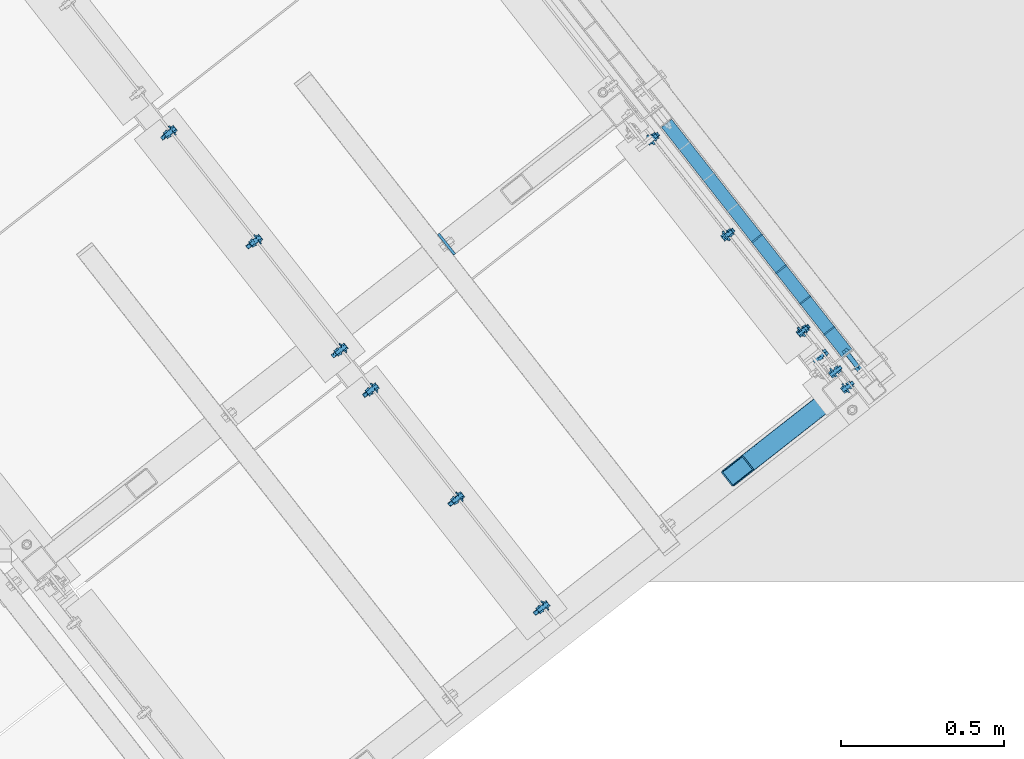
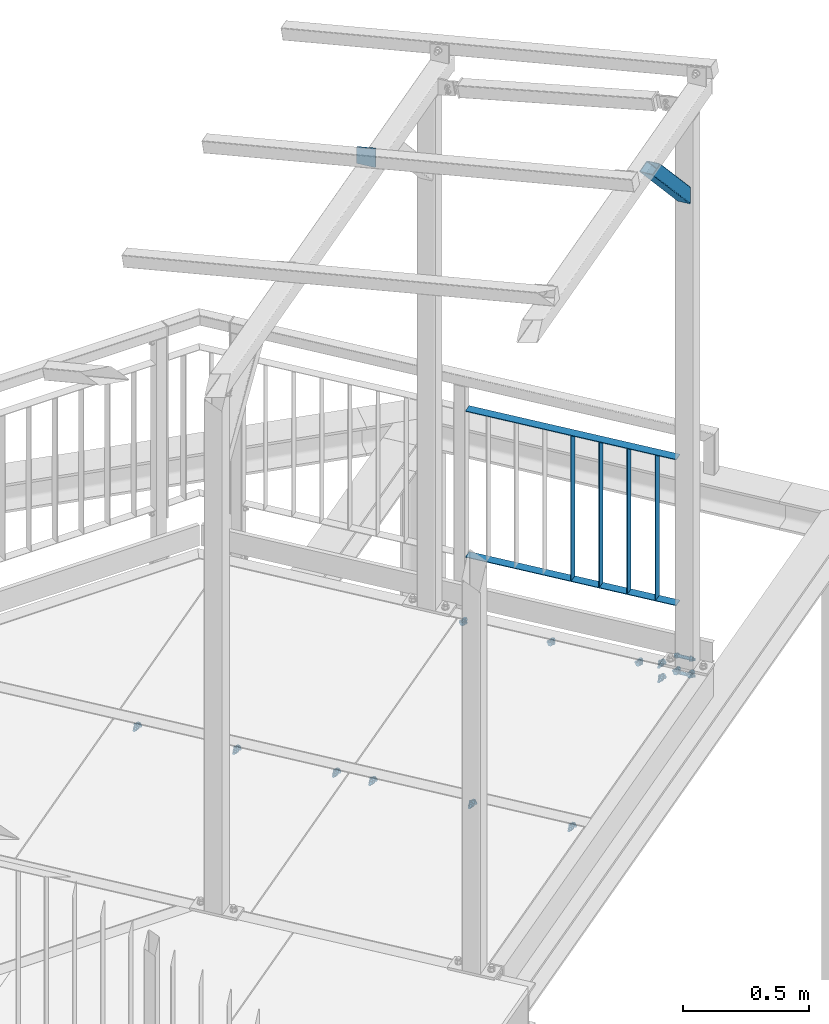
# One storey, part 126 of 169: 8 discrete accessories, 6 mechanical fasteners, 8 elements without a shape of their own.
"""IFC2X3 building model written with IfcOpenShell, lengths in millimetres."""

from ifc_helpers import new_model, si_unit, frame, frame_2d, origin_with_axes, origin_2d_with_axis, place, context, subcontext, project, spatial, polyline, circle_curve, parameter, trimmed, segment, composite_curve, rectangle, hollow_rectangle, circle, outline, extrude, boolean, clip, halfspace, source, transform, mapped, material, type_object, element, aggregate, save


model = new_model("IFC2X3")

# Units and contexts
model_context = context("Model", 3, precision=1e-05, world=origin_with_axes())
body_context = subcontext(model_context, "Body", "Model", "MODEL_VIEW")
ifc_project = project(units=[si_unit("LENGTHUNIT", "METRE", prefix="MILLI"), si_unit("AREAUNIT", "SQUARE_METRE"), si_unit("VOLUMEUNIT", "CUBIC_METRE"), si_unit("MASSUNIT", "GRAM", prefix="KILO"), si_unit("TIMEUNIT", "SECOND"), si_unit("PLANEANGLEUNIT", "RADIAN"), si_unit("SOLIDANGLEUNIT", "STERADIAN"), si_unit("THERMODYNAMICTEMPERATUREUNIT", "DEGREE_CELSIUS"), si_unit("LUMINOUSINTENSITYUNIT", "LUMEN")], contexts=[model_context])

# Site, building, storey
site_placement = place(None, origin_with_axes())
site = spatial("IfcSite", under=ifc_project, at=site_placement, Name="Undefined", CompositionType="ELEMENT")
building_placement = place(site_placement, origin_with_axes())
building = spatial("IfcBuilding", under=site, at=building_placement, Name="Undefined", CompositionType="ELEMENT")
storey_placement = place(building_placement, origin_with_axes())
storey = spatial("IfcBuildingStorey", under=building, at=storey_placement, Name="Undefined", CompositionType="ELEMENT", Elevation=0.0)

# Assembly, discrete accessory
assembly_1_placement = place(storey_placement, origin_with_axes())
assembly_1 = element("IfcElementAssembly", 1, at=assembly_1_placement, inside=storey, Name="Steel Assembly", AssemblyPlace="NOTDEFINED", PredefinedType="RIGID_FRAME")
ifc_material_1 = material(Name="STEEL/S235")
discrete_accessory_type_1 = type_object("IfcDiscreteAccessoryType", Name="BLACHA")
discrete_accessory_1_placement = place(assembly_1_placement, frame((21189.1758107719, 1049.73649792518, 16364.2280948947), z_axis=(-0.7867732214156, -0.61724217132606, -1.0406294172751e-07), x_axis=(0.617242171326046, -0.786773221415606, 1.36000016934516e-07)))
discrete_accessory_1 = element("IfcDiscreteAccessory", 2, at=discrete_accessory_1_placement, type_object=discrete_accessory_type_1, material=ifc_material_1, Name="BLACHA", ObjectType="BL8*80", context=body_context, shape_type="SweptSolid", body=[
    extrude(outline(polyline([(0.0, 0.0), (80.0000000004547, 5.02041075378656e-10), (80.0000000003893, 89.9999999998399), (-2.08646997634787e-06, 77.0), (0.0, 0.0)])), frame((1.81942236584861e-12, -3.63797880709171e-12, -4.00000000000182), z_axis=(0.0, 0.0, 1.0), x_axis=(1.0, 0.0, 0.0)), (0.0, 0.0, 1.0), 8.0),
])
aggregate(assembly_1, [discrete_accessory_1])

assembly_2_placement = place(storey_placement, origin_with_axes())
assembly_2 = element("IfcElementAssembly", 3, at=assembly_2_placement, inside=storey, Name="Steel Assembly", AssemblyPlace="NOTDEFINED", PredefinedType="RIGID_FRAME")
discrete_accessory_type_2 = type_object("IfcDiscreteAccessoryType", Name="BEAM")
discrete_accessory_2_placement = place(assembly_2_placement, frame((22091.2664834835, 308.491680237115, 16481.4411431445), z_axis=(-0.556332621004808, -0.436456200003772, -0.707106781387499), x_axis=(0.556332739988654, 0.436456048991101, -0.707106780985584)))
discrete_accessory_2 = element("IfcDiscreteAccessory", 4, at=discrete_accessory_2_placement, type_object=discrete_accessory_type_2, material=ifc_material_1, Name="BEAM", ObjectType="SHS60*3", context=body_context, shape_type="Clipping", body=[
    clip(clip(extrude(hollow_rectangle(XDim=60.0, YDim=60.0, WallThickness=3.0, InnerFilletRadius=3.0, OuterFilletRadius=6.0, at=origin_2d_with_axis()), frame((637.904540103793, 1.81363206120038e-12, 3.67338962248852e-12), z_axis=(-1.0, -3.46944695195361e-18, -1.38777878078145e-17), x_axis=(1.73472347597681e-18, -1.0, 0.0)), (0.0, 0.0, 1.0), 710.12), halfspace(frame((-143.137085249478, 3.41260601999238e-08, -678.822510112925), z_axis=(-0.707106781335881, -2.34577541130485e-10, 0.707106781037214), x_axis=(0.0, 1.0, 0.0)), True)), halfspace(frame((-705.391246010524, -5.43720307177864e-06, 735.391122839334), z_axis=(0.707106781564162, 2.34575523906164e-10, 0.707106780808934), x_axis=(0.0, 1.0, 0.0)), True)),
])
aggregate(assembly_2, [discrete_accessory_2])

# Assembly, discrete accessories
assembly_3_placement = place(storey_placement, origin_with_axes())
assembly_3 = element("IfcElementAssembly", 5, at=assembly_3_placement, inside=storey, Name="Steel Assembly", AssemblyPlace="NOTDEFINED", PredefinedType="RIGID_FRAME")
discrete_accessory_type_3 = type_object("IfcDiscreteAccessoryType", Name="PORĘCZ")
discrete_accessory_3_placement = place(assembly_3_placement, frame((21873.9374202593, 1409.80245815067, 14725.4172732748), z_axis=(-2.54700353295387e-10, 0.0, -1.0), x_axis=(0.617242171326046, -0.786773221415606, 1.36000016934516e-07)))
discrete_accessory_3 = element("IfcDiscreteAccessory", 6, at=discrete_accessory_3_placement, type_object=discrete_accessory_type_3, material=ifc_material_1, Name="PORĘCZ", ObjectType="BL40*3", context=body_context, shape_type="CSG", body=[
    boolean("DIFFERENCE", boolean("DIFFERENCE", boolean("DIFFERENCE", boolean("DIFFERENCE", extrude(outline(polyline([(25.4999999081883, 20.0000000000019), (925.126753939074, 20.0000000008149), (925.126753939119, -19.9999999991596), (25.499999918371, -19.9999999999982), (25.4999999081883, 20.0000000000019)])), frame((1.81898940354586e-12, -1.77635442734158e-15, -1.50000000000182), z_axis=(0.0, 0.0, 1.0), x_axis=(1.0, 0.0, 0.0)), (0.0, 0.0, 1.0), 3.0), extrude(rectangle(XDim=51.0, YDim=51.0, at=origin_2d_with_axis()), frame((-5.94487782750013e-08, -4.65977194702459e-09, -139.999999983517), z_axis=(0.0, 0.0, 1.0), x_axis=(1.0, 0.0, 0.0)), (0.0, 0.0, 1.0), 280.0)), extrude(rectangle(XDim=51.0, YDim=51.0, at=origin_2d_with_axis()), frame((950.626758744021, -4.45170614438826e-08, -140.000000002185), z_axis=(0.0, 0.0, 1.0), x_axis=(1.0, 0.0, 0.0)), (0.0, 0.0, 1.0), 280.0)), halfspace(frame((24.9999999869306, 1000.00000000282, -1.78988557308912e-09), z_axis=(1.0, 0.0, 0.0), x_axis=(-2.54700353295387e-10, 0.0, -1.0)), True)), halfspace(frame((925.626778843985, 1000.00000000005, -7.62682248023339e-07), z_axis=(-1.0, -3.46944695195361e-18, -1.38777878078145e-17), x_axis=(0.0, 0.0, 1.0)), True)),
])
discrete_accessory_4_placement = place(assembly_3_placement, frame((22167.3207978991, 1035.83854390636, 14870.4177209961), z_axis=(-0.617242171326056, 0.786773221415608, 5.09999997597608e-08), x_axis=(-2.54700353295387e-10, 0.0, -1.0)))
discrete_accessory_4 = element("IfcDiscreteAccessory", 7, at=discrete_accessory_4_placement, type_object=discrete_accessory_type_3, material=ifc_material_1, Name="PORĘCZ", ObjectType="BL40*3", context=body_context, shape_type="Clipping", body=[
    clip(clip(clip(extrude(outline(polyline([(848.499998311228, 19.9999999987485), (848.500000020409, -20.000000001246), (146.500383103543, -20.0000000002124), (146.500381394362, 19.9999999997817), (848.499998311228, 19.9999999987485)])), frame((1.81898940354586e-12, -1.77635442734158e-15, -1.50000000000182), z_axis=(0.0, 0.0, 1.0), x_axis=(1.0, 0.0, 0.0)), (0.0, 0.0, 1.0), 3.0), halfspace(frame((146.500339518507, 1000.00000006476, -1.23327481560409e-09), z_axis=(1.0, 0.0, 0.0), x_axis=(-2.54700353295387e-10, 0.0, -1.0)), True)), halfspace(frame((848.499956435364, 999.999999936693, 2.33558239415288e-09), z_axis=(-1.0, -3.46944695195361e-18, -1.38777878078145e-17), x_axis=(0.0, 0.0, 1.0)), True)), halfspace(frame((24.9999999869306, 1000.00000000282, -1.78988557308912e-09), z_axis=(1.0, 0.0, 0.0), x_axis=(-2.54700353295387e-10, 0.0, -1.0)), True)),
])
discrete_accessory_5_placement = place(assembly_3_placement, frame((22241.3898584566, 941.425757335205, 14870.4177373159), z_axis=(-0.617242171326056, 0.786773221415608, 5.09999997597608e-08), x_axis=(-2.54700353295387e-10, 0.0, -1.0)))
discrete_accessory_5 = element("IfcDiscreteAccessory", 8, at=discrete_accessory_5_placement, type_object=discrete_accessory_type_3, material=ifc_material_1, Name="PORĘCZ", ObjectType="BL40*3", context=body_context, shape_type="Clipping", body=[
    clip(clip(clip(extrude(outline(polyline([(848.499998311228, 19.9999999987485), (848.500000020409, -20.000000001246), (146.500383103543, -20.0000000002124), (146.500381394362, 19.9999999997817), (848.499998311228, 19.9999999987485)])), frame((1.81898940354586e-12, -1.77635442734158e-15, -1.50000000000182), z_axis=(0.0, 0.0, 1.0), x_axis=(1.0, 0.0, 0.0)), (0.0, 0.0, 1.0), 3.0), halfspace(frame((146.500339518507, 1000.00000006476, -1.23327481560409e-09), z_axis=(1.0, 0.0, 0.0), x_axis=(-2.54700353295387e-10, 0.0, -1.0)), True)), halfspace(frame((848.499956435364, 999.999999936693, 2.33558239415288e-09), z_axis=(-1.0, -3.46944695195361e-18, -1.38777878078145e-17), x_axis=(0.0, 0.0, 1.0)), True)), halfspace(frame((24.9999999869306, 1000.00000000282, -1.78988557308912e-09), z_axis=(1.0, 0.0, 0.0), x_axis=(-2.54700353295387e-10, 0.0, -1.0)), True)),
])
discrete_accessory_6_placement = place(assembly_3_placement, frame((22315.4589190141, 847.01297076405, 14870.4177536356), z_axis=(-0.617242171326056, 0.786773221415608, 5.09999997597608e-08), x_axis=(-2.54700353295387e-10, 0.0, -1.0)))
discrete_accessory_6 = element("IfcDiscreteAccessory", 9, at=discrete_accessory_6_placement, type_object=discrete_accessory_type_3, material=ifc_material_1, Name="PORĘCZ", ObjectType="BL40*3", context=body_context, shape_type="Clipping", body=[
    clip(clip(clip(extrude(outline(polyline([(848.499998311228, 19.9999999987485), (848.500000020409, -20.000000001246), (146.500383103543, -20.0000000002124), (146.500381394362, 19.9999999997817), (848.499998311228, 19.9999999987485)])), frame((1.81898940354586e-12, -1.77635442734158e-15, -1.50000000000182), z_axis=(0.0, 0.0, 1.0), x_axis=(1.0, 0.0, 0.0)), (0.0, 0.0, 1.0), 3.0), halfspace(frame((146.500339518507, 1000.00000006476, -1.23327481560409e-09), z_axis=(1.0, 0.0, 0.0), x_axis=(-2.54700353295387e-10, 0.0, -1.0)), True)), halfspace(frame((848.499956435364, 999.999999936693, 2.33558239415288e-09), z_axis=(-1.0, -3.46944695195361e-18, -1.38777878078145e-17), x_axis=(0.0, 0.0, 1.0)), True)), halfspace(frame((24.9999999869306, 1000.00000000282, -1.78988557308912e-09), z_axis=(1.0, 0.0, 0.0), x_axis=(-2.54700353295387e-10, 0.0, -1.0)), True)),
])
discrete_accessory_7_placement = place(assembly_3_placement, frame((22389.5279795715, 752.600184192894, 14870.4177699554), z_axis=(-0.617242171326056, 0.786773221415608, 5.09999997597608e-08), x_axis=(-2.54700353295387e-10, 0.0, -1.0)))
discrete_accessory_7 = element("IfcDiscreteAccessory", 10, at=discrete_accessory_7_placement, type_object=discrete_accessory_type_3, material=ifc_material_1, Name="PORĘCZ", ObjectType="BL40*3", context=body_context, shape_type="Clipping", body=[
    clip(clip(clip(extrude(outline(polyline([(848.499998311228, 19.9999999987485), (848.500000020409, -20.000000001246), (146.500383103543, -20.0000000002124), (146.500381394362, 19.9999999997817), (848.499998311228, 19.9999999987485)])), frame((1.81898940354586e-12, -1.77635442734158e-15, -1.50000000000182), z_axis=(0.0, 0.0, 1.0), x_axis=(1.0, 0.0, 0.0)), (0.0, 0.0, 1.0), 3.0), halfspace(frame((146.500339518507, 1000.00000006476, -1.23327481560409e-09), z_axis=(1.0, 0.0, 0.0), x_axis=(-2.54700353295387e-10, 0.0, -1.0)), True)), halfspace(frame((848.499956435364, 999.999999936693, 2.33558239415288e-09), z_axis=(-1.0, -3.46944695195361e-18, -1.38777878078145e-17), x_axis=(0.0, 0.0, 1.0)), True)), halfspace(frame((24.9999999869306, 1000.00000000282, -1.78988557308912e-09), z_axis=(1.0, 0.0, 0.0), x_axis=(-2.54700353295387e-10, 0.0, -1.0)), True)),
])
discrete_accessory_8_placement = place(assembly_3_placement, frame((21873.9374794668, 1409.80238273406, 14020.4176563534), z_axis=(-2.54700353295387e-10, 0.0, -1.0), x_axis=(0.617242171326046, -0.786773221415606, 1.36000016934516e-07)))
discrete_accessory_8 = element("IfcDiscreteAccessory", 11, at=discrete_accessory_8_placement, type_object=discrete_accessory_type_3, material=ifc_material_1, Name="PORĘCZ", ObjectType="BL40*3", context=body_context, shape_type="CSG", body=[
    boolean("DIFFERENCE", boolean("DIFFERENCE", boolean("DIFFERENCE", boolean("DIFFERENCE", extrude(outline(polyline([(25.4999999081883, 20.0000000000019), (925.126753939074, 20.0000000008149), (925.126753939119, -19.9999999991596), (25.499999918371, -19.9999999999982), (25.4999999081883, 20.0000000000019)])), frame((1.81898940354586e-12, -1.77635442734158e-15, -1.50000000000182), z_axis=(0.0, 0.0, 1.0), x_axis=(1.0, 0.0, 0.0)), (0.0, 0.0, 1.0), 3.0), extrude(rectangle(XDim=51.0, YDim=51.0, at=origin_2d_with_axis()), frame((-5.94487782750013e-08, -4.65977194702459e-09, -139.999999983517), z_axis=(0.0, 0.0, 1.0), x_axis=(1.0, 0.0, 0.0)), (0.0, 0.0, 1.0), 280.0)), extrude(rectangle(XDim=51.0, YDim=51.0, at=origin_2d_with_axis()), frame((950.626758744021, -4.45170614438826e-08, -140.000000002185), z_axis=(0.0, 0.0, 1.0), x_axis=(1.0, 0.0, 0.0)), (0.0, 0.0, 1.0), 280.0)), halfspace(frame((24.9999999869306, 1000.00000000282, -1.78988557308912e-09), z_axis=(1.0, 0.0, 0.0), x_axis=(-2.54700353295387e-10, 0.0, -1.0)), True)), halfspace(frame((925.626778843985, 1000.00000000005, -7.62682248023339e-07), z_axis=(-1.0, -3.46944695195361e-18, -1.38777878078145e-17), x_axis=(0.0, 0.0, 1.0)), True)),
])
aggregate(assembly_3, [discrete_accessory_3, discrete_accessory_4, discrete_accessory_5, discrete_accessory_6, discrete_accessory_7, discrete_accessory_8])

# Assembly, mechanical fastener
assembly_4_placement = place(storey_placement, origin_with_axes())
assembly_4 = element("IfcElementAssembly", 12, at=assembly_4_placement, inside=storey, Name="Steel Assembly", AssemblyPlace="NOTDEFINED", PredefinedType="RIGID_FRAME")
ifc_material_2 = material(Name="Undefined")
discrete_accessory_type_4 = type_object("IfcDiscreteAccessoryType", Name="Bolt assembly")
shared_shape_1 = source(origin_with_axes(), body_context, "Body", "SweptSolid", [
    extrude(circle(Radius=7.5, at=origin_2d_with_axis()), frame((0.0, 4.89999999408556, 0.0), z_axis=(0.0, 1.0, 0.0), x_axis=(1.0, 0.0, 0.0)), (0.0, 0.0, 1.0), 7.1),
    extrude(outline(composite_curve([segment(polyline([(-10.0, 7.5), (10.0, 7.5)]), True, "CONTINUOUS"), segment(trimmed(circle_curve(frame_2d((10.0, 0.0), x_axis=(0.0, 1.0)), 7.5), [parameter(0.0)], [parameter(3.14159265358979)], False, "PARAMETER"), True, "CONTINUOUS"), segment(polyline([(10.0, -7.5), (-10.0, -7.5)]), True, "CONTINUOUS"), segment(trimmed(circle_curve(frame_2d((-10.0, 0.0), x_axis=(0.0, -1.0)), 7.5), [parameter(0.0)], [parameter(3.14159265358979)], False, "PARAMETER"), True, "DISCONTINUOUS")], self_intersect=False)), frame((0.0, 0.100000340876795, 0.0), z_axis=(0.0, 1.0, 0.0), x_axis=(1.0, 0.0, 0.0)), (0.0, 0.0, 1.0), 5.0),
    extrude(outline(polyline([(10.39230484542, 0.0), (5.19615242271, 9.00000000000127), (-5.19615242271, 9.00000000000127), (-10.39230484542, 0.0), (-5.19615242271, -9.00000000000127), (5.19615242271, -9.00000000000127), (10.39230484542, 0.0)])), frame((0.0, -10.4999989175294, 0.0), z_axis=(0.0, 1.0, 0.0), x_axis=(1.0, 0.0, 0.0)), (0.0, 0.0, 1.0), 7.5),
    extrude(circle(Radius=6.0, at=origin_2d_with_axis()), frame((0.0, -3.00000607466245, 0.0), z_axis=(0.0, 1.0, 0.0), x_axis=(1.0, 0.0, 0.0)), (0.0, 0.0, 1.0), 35.0),
    extrude(circle(Radius=12.0, at=origin_2d_with_axis()), frame((0.0, -3.00000607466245, 0.0), z_axis=(0.0, 1.0, 0.0), x_axis=(1.0, 0.0, 0.0)), (0.0, 0.0, 1.0), 3.0),
    extrude(circle(Radius=12.0, at=origin_2d_with_axis()), frame((0.0, 12.000000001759, 0.0), z_axis=(0.0, 1.0, 0.0), x_axis=(1.0, 0.0, 0.0)), (0.0, 0.0, 1.0), 3.0),
    extrude(outline(polyline([(10.96965511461, 0.0), (5.484827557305, 9.50000000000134), (-5.484827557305, 9.50000000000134), (-10.96965511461, 0.0), (-5.484827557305, -9.50000000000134), (5.484827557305, -9.50000000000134), (10.96965511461, 0.0)])), frame((0.0, 14.9999935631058, 0.0), z_axis=(0.0, 1.0, 0.0), x_axis=(1.0, 0.0, 0.0)), (0.0, 0.0, 1.0), 10.0),
])
mechanical_fastener_1_placement = place(assembly_4_placement, frame((22437.9809271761, 574.191537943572, 13740.418461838), z_axis=(-2.54700353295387e-10, 0.0, -1.0), x_axis=(-0.617242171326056, 0.786773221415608, 5.09999997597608e-08)))
mechanical_fastener_1 = element("IfcMechanicalFastener", 13, at=mechanical_fastener_1_placement, type_object=discrete_accessory_type_4, material=ifc_material_2, Name="Bolt assembly", NominalDiameter=12.0, NominalLength=35.0, context=body_context, shape_type="MappedRepresentation", body=[
    mapped(shared_shape_1, transform((0.0, 0.0, 0.0))),
    mapped(shared_shape_1, transform((60.0000000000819, 1.45519152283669e-11, 1.63709046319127e-11))),
])
aggregate(assembly_4, [mechanical_fastener_1])

assembly_5_placement = place(storey_placement, origin_with_axes())
assembly_5 = element("IfcElementAssembly", 14, at=assembly_5_placement, inside=storey, Name="Steel Assembly", AssemblyPlace="NOTDEFINED", PredefinedType="RIGID_FRAME")
shared_shape_2 = source(origin_with_axes(), body_context, "Body", "SweptSolid", [
    extrude(circle(Radius=7.5, at=origin_2d_with_axis()), frame((0.0, 4.89999999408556, 0.0), z_axis=(0.0, 1.0, 0.0), x_axis=(1.0, 0.0, 0.0)), (0.0, 0.0, 1.0), 7.1),
    extrude(outline(composite_curve([segment(polyline([(-10.0, 7.5), (10.0, 7.5)]), True, "CONTINUOUS"), segment(trimmed(circle_curve(frame_2d((10.0, 0.0), x_axis=(0.0, 1.0)), 7.5), [parameter(0.0)], [parameter(3.14159265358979)], False, "PARAMETER"), True, "CONTINUOUS"), segment(polyline([(10.0, -7.5), (-10.0, -7.5)]), True, "CONTINUOUS"), segment(trimmed(circle_curve(frame_2d((-10.0, 0.0), x_axis=(0.0, -1.0)), 7.5), [parameter(0.0)], [parameter(3.14159265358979)], False, "PARAMETER"), True, "DISCONTINUOUS")], self_intersect=False)), frame((0.0, 0.100000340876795, 0.0), z_axis=(0.0, 1.0, 0.0), x_axis=(1.0, 0.0, 0.0)), (0.0, 0.0, 1.0), 5.0),
    extrude(outline(polyline([(10.39230484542, 0.0), (5.19615242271, 9.00000000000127), (-5.19615242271, 9.00000000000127), (-10.39230484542, 0.0), (-5.19615242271, -9.00000000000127), (5.19615242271, -9.00000000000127), (10.39230484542, 0.0)])), frame((0.0, -10.4999989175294, 0.0), z_axis=(0.0, 1.0, 0.0), x_axis=(1.0, 0.0, 0.0)), (0.0, 0.0, 1.0), 7.5),
    extrude(circle(Radius=6.0, at=origin_2d_with_axis()), frame((0.0, -3.00000607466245, 0.0), z_axis=(0.0, 1.0, 0.0), x_axis=(1.0, 0.0, 0.0)), (0.0, 0.0, 1.0), 35.0),
    extrude(circle(Radius=12.0, at=origin_2d_with_axis()), frame((0.0, -3.00000607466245, 0.0), z_axis=(0.0, 1.0, 0.0), x_axis=(1.0, 0.0, 0.0)), (0.0, 0.0, 1.0), 3.0),
    extrude(circle(Radius=12.0, at=origin_2d_with_axis()), frame((0.0, 12.000000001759, 0.0), z_axis=(0.0, 1.0, 0.0), x_axis=(1.0, 0.0, 0.0)), (0.0, 0.0, 1.0), 3.0),
    extrude(outline(polyline([(10.96965511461, 0.0), (5.484827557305, 9.50000000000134), (-5.484827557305, 9.50000000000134), (-10.96965511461, 0.0), (-5.484827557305, -9.50000000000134), (5.484827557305, -9.50000000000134), (10.96965511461, 0.0)])), frame((0.0, 14.9999935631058, 0.0), z_axis=(0.0, 1.0, 0.0), x_axis=(1.0, 0.0, 0.0)), (0.0, 0.0, 1.0), 10.0),
])
mechanical_fastener_2_placement = place(assembly_5_placement, frame((22302.187591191, 747.281725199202, 13740.418431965), z_axis=(-2.54700353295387e-10, 0.0, -1.0), x_axis=(-0.617242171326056, 0.786773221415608, 5.09999997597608e-08)))
mechanical_fastener_2 = element("IfcMechanicalFastener", 15, at=mechanical_fastener_2_placement, type_object=discrete_accessory_type_4, material=ifc_material_2, Name="Bolt assembly", NominalDiameter=12.0, NominalLength=35.0, context=body_context, shape_type="MappedRepresentation", body=[
    mapped(shared_shape_2, transform((0.0, 0.0, 0.0))),
    mapped(shared_shape_2, transform((375.00000000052, 1.01863406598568e-10, 1.00044417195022e-10))),
    mapped(shared_shape_2, transform((750.000000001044, 2.07364792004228e-10, 2.0190782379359e-10))),
])
aggregate(assembly_5, [mechanical_fastener_2])

assembly_6_placement = place(storey_placement, origin_with_axes())
assembly_6 = element("IfcElementAssembly", 16, at=assembly_6_placement, inside=storey, Name="Steel Assembly", AssemblyPlace="NOTDEFINED", PredefinedType="RIGID_FRAME")
shared_shape_3 = source(origin_with_axes(), body_context, "Body", "SweptSolid", [
    extrude(circle(Radius=7.5, at=origin_2d_with_axis()), frame((0.0, 2.94991391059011, 0.0), z_axis=(0.0, 1.0, 0.0), x_axis=(1.0, 0.0, 0.0)), (0.0, 0.0, 1.0), 7.0),
    extrude(outline(composite_curve([segment(polyline([(-10.0, 7.5), (10.0, 7.5)]), True, "CONTINUOUS"), segment(trimmed(circle_curve(frame_2d((10.0, 0.0), x_axis=(0.0, 1.0)), 7.5), [parameter(0.0)], [parameter(3.14159265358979)], False, "PARAMETER"), True, "CONTINUOUS"), segment(polyline([(10.0, -7.5), (-10.0, -7.5)]), True, "CONTINUOUS"), segment(trimmed(circle_curve(frame_2d((-10.0, 0.0), x_axis=(0.0, -1.0)), 7.5), [parameter(0.0)], [parameter(3.14159265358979)], False, "PARAMETER"), True, "DISCONTINUOUS")], self_intersect=False)), frame((0.0, 0.100000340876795, 0.0), z_axis=(0.0, 1.0, 0.0), x_axis=(1.0, 0.0, 0.0)), (0.0, 0.0, 1.0), 3.0),
    extrude(circle(Radius=7.5, at=origin_2d_with_axis()), frame((0.0, 9.84991653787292, 0.0), z_axis=(0.0, 1.0, 0.0), x_axis=(1.0, 0.0, 0.0)), (0.0, 0.0, 1.0), 5.1),
    extrude(outline(polyline([(10.39230484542, 0.0), (5.19615242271, 9.00000000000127), (-5.19615242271, 9.00000000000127), (-10.39230484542, 0.0), (-5.19615242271, -9.00000000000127), (5.19615242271, -9.00000000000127), (10.39230484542, 0.0)])), frame((0.0, -10.4999989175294, 0.0), z_axis=(0.0, 1.0, 0.0), x_axis=(1.0, 0.0, 0.0)), (0.0, 0.0, 1.0), 7.5),
    extrude(circle(Radius=6.0, at=origin_2d_with_axis()), frame((0.0, -3.00000607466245, 0.0), z_axis=(0.0, 1.0, 0.0), x_axis=(1.0, 0.0, 0.0)), (0.0, 0.0, 1.0), 45.0),
    extrude(circle(Radius=12.0, at=origin_2d_with_axis()), frame((0.0, -3.00000607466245, 0.0), z_axis=(0.0, 1.0, 0.0), x_axis=(1.0, 0.0, 0.0)), (0.0, 0.0, 1.0), 3.0),
    extrude(circle(Radius=12.0, at=origin_2d_with_axis()), frame((0.0, 14.9499165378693, 0.0), z_axis=(0.0, 1.0, 0.0), x_axis=(1.0, 0.0, 0.0)), (0.0, 0.0, 1.0), 3.0),
    extrude(outline(polyline([(10.96965511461, 0.0), (5.484827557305, 9.50000000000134), (-5.484827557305, 9.50000000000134), (-10.96965511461, 0.0), (-5.484827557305, -9.50000000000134), (5.484827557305, -9.50000000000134), (10.96965511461, 0.0)])), frame((0.0, 17.9499165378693, 0.0), z_axis=(0.0, 1.0, 0.0), x_axis=(1.0, 0.0, 0.0)), (0.0, 0.0, 1.0), 10.0),
])
mechanical_fastener_3_placement = place(assembly_6_placement, frame((21517.1780166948, -91.0044379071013, 13740.4180679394), z_axis=(0.0, 0.0, 1.0), x_axis=(-0.617242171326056, 0.786773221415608, 5.09999997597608e-08)))
mechanical_fastener_3 = element("IfcMechanicalFastener", 17, at=mechanical_fastener_3_placement, type_object=discrete_accessory_type_4, material=ifc_material_2, Name="Bolt assembly", NominalDiameter=12.0, NominalLength=45.0, context=body_context, shape_type="MappedRepresentation", body=[
    mapped(shared_shape_3, transform((0.0, 0.0, 0.0))),
    mapped(shared_shape_3, transform((425.000000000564, -1.43700162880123e-10, -1.69166014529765e-10))),
    mapped(shared_shape_3, transform((850.000000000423, 3.6379787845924e-12, 4.71844785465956e-14))),
])
aggregate(assembly_6, [mechanical_fastener_3])

assembly_7_placement = place(storey_placement, origin_with_axes())
assembly_7 = element("IfcElementAssembly", 18, at=assembly_7_placement, inside=storey, Name="Steel Assembly", AssemblyPlace="NOTDEFINED", PredefinedType="RIGID_FRAME")
shared_shape_4 = source(origin_with_axes(), body_context, "Body", "SweptSolid", [
    extrude(circle(Radius=7.5, at=origin_2d_with_axis()), frame((0.0, 2.94991391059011, 0.0), z_axis=(0.0, 1.0, 0.0), x_axis=(1.0, 0.0, 0.0)), (0.0, 0.0, 1.0), 7.0),
    extrude(outline(composite_curve([segment(polyline([(-10.0, 7.5), (10.0, 7.5)]), True, "CONTINUOUS"), segment(trimmed(circle_curve(frame_2d((10.0, 0.0), x_axis=(0.0, 1.0)), 7.5), [parameter(0.0)], [parameter(3.14159265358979)], False, "PARAMETER"), True, "CONTINUOUS"), segment(polyline([(10.0, -7.5), (-10.0, -7.5)]), True, "CONTINUOUS"), segment(trimmed(circle_curve(frame_2d((-10.0, 0.0), x_axis=(0.0, -1.0)), 7.5), [parameter(0.0)], [parameter(3.14159265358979)], False, "PARAMETER"), True, "DISCONTINUOUS")], self_intersect=False)), frame((0.0, 0.100000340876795, 0.0), z_axis=(0.0, 1.0, 0.0), x_axis=(1.0, 0.0, 0.0)), (0.0, 0.0, 1.0), 3.0),
    extrude(circle(Radius=7.5, at=origin_2d_with_axis()), frame((0.0, 9.84991653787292, 0.0), z_axis=(0.0, 1.0, 0.0), x_axis=(1.0, 0.0, 0.0)), (0.0, 0.0, 1.0), 5.1),
    extrude(outline(polyline([(10.39230484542, 0.0), (5.19615242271, 9.00000000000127), (-5.19615242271, 9.00000000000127), (-10.39230484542, 0.0), (-5.19615242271, -9.00000000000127), (5.19615242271, -9.00000000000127), (10.39230484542, 0.0)])), frame((0.0, -10.4999989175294, 0.0), z_axis=(0.0, 1.0, 0.0), x_axis=(1.0, 0.0, 0.0)), (0.0, 0.0, 1.0), 7.5),
    extrude(circle(Radius=6.0, at=origin_2d_with_axis()), frame((0.0, -3.00000607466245, 0.0), z_axis=(0.0, 1.0, 0.0), x_axis=(1.0, 0.0, 0.0)), (0.0, 0.0, 1.0), 45.0),
    extrude(circle(Radius=12.0, at=origin_2d_with_axis()), frame((0.0, -3.00000607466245, 0.0), z_axis=(0.0, 1.0, 0.0), x_axis=(1.0, 0.0, 0.0)), (0.0, 0.0, 1.0), 3.0),
    extrude(circle(Radius=12.0, at=origin_2d_with_axis()), frame((0.0, 14.9499165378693, 0.0), z_axis=(0.0, 1.0, 0.0), x_axis=(1.0, 0.0, 0.0)), (0.0, 0.0, 1.0), 3.0),
    extrude(outline(polyline([(10.96965511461, 0.0), (5.484827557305, 9.50000000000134), (-5.484827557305, 9.50000000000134), (-10.96965511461, 0.0), (-5.484827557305, -9.50000000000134), (5.484827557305, -9.50000000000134), (10.96965511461, 0.0)])), frame((0.0, 17.9499165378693, 0.0), z_axis=(0.0, 1.0, 0.0), x_axis=(1.0, 0.0, 0.0)), (0.0, 0.0, 1.0), 10.0),
])
mechanical_fastener_4_placement = place(assembly_7_placement, frame((20896.8496344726, 699.702649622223, 13740.4180676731), z_axis=(0.0, 0.0, 1.0), x_axis=(-0.617242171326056, 0.786773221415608, 5.09999997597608e-08)))
mechanical_fastener_4 = element("IfcMechanicalFastener", 19, at=mechanical_fastener_4_placement, type_object=discrete_accessory_type_4, material=ifc_material_2, Name="Bolt assembly", NominalDiameter=12.0, NominalLength=45.0, context=body_context, shape_type="MappedRepresentation", body=[
    mapped(shared_shape_4, transform((0.0, 0.0, 0.0))),
    mapped(shared_shape_4, transform((425.000000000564, -1.43700162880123e-10, -1.69166014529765e-10))),
    mapped(shared_shape_4, transform((850.000000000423, 3.6379787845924e-12, 4.71844785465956e-14))),
])
aggregate(assembly_7, [mechanical_fastener_4])

# Assembly, mechanical fasteners
assembly_8_placement = place(storey_placement, origin_with_axes())
assembly_8 = element("IfcElementAssembly", 20, at=assembly_8_placement, inside=storey, Name="Steel Assembly", AssemblyPlace="NOTDEFINED", PredefinedType="RIGID_FRAME")
shared_shape_5 = source(origin_with_axes(), body_context, "Body", "SweptSolid", [
    extrude(circle(Radius=7.5, at=origin_2d_with_axis()), frame((0.0, 4.89999999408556, 0.0), z_axis=(0.0, 1.0, 0.0), x_axis=(1.0, 0.0, 0.0)), (0.0, 0.0, 1.0), 50.1),
    extrude(outline(composite_curve([segment(polyline([(7.5, 7.5), (7.5, -7.5)]), True, "CONTINUOUS"), segment(trimmed(circle_curve(frame_2d((0.0, -7.5), x_axis=(1.0, 0.0)), 7.5), [parameter(0.0)], [parameter(3.14159265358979)], False, "PARAMETER"), True, "CONTINUOUS"), segment(polyline([(-7.5, -7.5), (-7.5, 7.5)]), True, "CONTINUOUS"), segment(trimmed(circle_curve(frame_2d((0.0, 7.5), x_axis=(-1.0, 0.0)), 7.5), [parameter(0.0)], [parameter(3.14159265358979)], False, "PARAMETER"), True, "DISCONTINUOUS")], self_intersect=False)), frame((0.0, 0.100000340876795, 0.0), z_axis=(0.0, 1.0, 0.0), x_axis=(1.0, 0.0, 0.0)), (0.0, 0.0, 1.0), 5.0),
    extrude(outline(polyline([(10.39230484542, 0.0), (5.19615242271, 9.00000000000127), (-5.19615242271, 9.00000000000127), (-10.39230484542, 0.0), (-5.19615242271, -9.00000000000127), (5.19615242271, -9.00000000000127), (10.39230484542, 0.0)])), frame((0.0, -10.4999989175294, 0.0), z_axis=(0.0, 1.0, 0.0), x_axis=(1.0, 0.0, 0.0)), (0.0, 0.0, 1.0), 7.5),
    extrude(circle(Radius=6.0, at=origin_2d_with_axis()), frame((0.0, -3.00000607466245, 0.0), z_axis=(0.0, 1.0, 0.0), x_axis=(1.0, 0.0, 0.0)), (0.0, 0.0, 1.0), 80.0),
    extrude(circle(Radius=12.0, at=origin_2d_with_axis()), frame((0.0, -3.00000607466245, 0.0), z_axis=(0.0, 1.0, 0.0), x_axis=(1.0, 0.0, 0.0)), (0.0, 0.0, 1.0), 3.0),
    extrude(circle(Radius=12.0, at=origin_2d_with_axis()), frame((0.0, 54.9999999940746, 0.0), z_axis=(0.0, 1.0, 0.0), x_axis=(1.0, 0.0, 0.0)), (0.0, 0.0, 1.0), 3.0),
    extrude(outline(polyline([(10.96965511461, 0.0), (5.484827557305, 9.50000000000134), (-5.484827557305, 9.50000000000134), (-10.96965511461, 0.0), (-5.484827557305, -9.50000000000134), (5.484827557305, -9.50000000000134), (10.96965511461, 0.0)])), frame((0.0, 57.9999999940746, 0.0), z_axis=(0.0, 1.0, 0.0), x_axis=(1.0, 0.0, 0.0)), (0.0, 0.0, 1.0), 10.0),
])
mechanical_fastener_5_placement = place(assembly_8_placement, frame((22442.187173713, 685.477882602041, 13685.4177850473), z_axis=(0.786773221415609, 0.617242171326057, 0.0), x_axis=(0.0, 0.0, 1.0)))
mechanical_fastener_5 = element("IfcMechanicalFastener", 21, at=mechanical_fastener_5_placement, type_object=discrete_accessory_type_4, material=ifc_material_2, Name="Bolt assembly", NominalDiameter=12.0, NominalLength=80.0, context=body_context, shape_type="MappedRepresentation", body=[
    mapped(shared_shape_5, transform((0.0, 0.0, 0.0))),
    mapped(shared_shape_5, transform((79.9999999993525, -4.5446979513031e-13, -4.53637127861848e-13))),
])
shared_shape_6 = source(origin_with_axes(), body_context, "Body", "SweptSolid", [
    extrude(circle(Radius=7.5, at=origin_2d_with_axis()), frame((0.0, 4.89999999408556, 0.0), z_axis=(0.0, 1.0, 0.0), x_axis=(1.0, 0.0, 0.0)), (0.0, 0.0, 1.0), 7.1),
    extrude(outline(composite_curve([segment(polyline([(7.5, 10.0), (7.5, -10.0)]), True, "CONTINUOUS"), segment(trimmed(circle_curve(frame_2d((0.0, -10.0), x_axis=(1.0, 0.0)), 7.5), [parameter(0.0)], [parameter(3.14159265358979)], False, "PARAMETER"), True, "CONTINUOUS"), segment(polyline([(-7.5, -10.0), (-7.5, 10.0)]), True, "CONTINUOUS"), segment(trimmed(circle_curve(frame_2d((0.0, 10.0), x_axis=(-1.0, 0.0)), 7.5), [parameter(0.0)], [parameter(3.14159265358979)], False, "PARAMETER"), True, "DISCONTINUOUS")], self_intersect=False)), frame((0.0, 0.100000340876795, 0.0), z_axis=(0.0, 1.0, 0.0), x_axis=(1.0, 0.0, 0.0)), (0.0, 0.0, 1.0), 5.0),
    extrude(outline(polyline([(10.39230484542, 0.0), (5.19615242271, 9.00000000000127), (-5.19615242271, 9.00000000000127), (-10.39230484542, 0.0), (-5.19615242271, -9.00000000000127), (5.19615242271, -9.00000000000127), (10.39230484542, 0.0)])), frame((0.0, -10.4999989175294, 0.0), z_axis=(0.0, 1.0, 0.0), x_axis=(1.0, 0.0, 0.0)), (0.0, 0.0, 1.0), 7.5),
    extrude(circle(Radius=6.0, at=origin_2d_with_axis()), frame((0.0, -3.00000607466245, 0.0), z_axis=(0.0, 1.0, 0.0), x_axis=(1.0, 0.0, 0.0)), (0.0, 0.0, 1.0), 45.0),
    extrude(circle(Radius=12.0, at=origin_2d_with_axis()), frame((0.0, -3.00000607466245, 0.0), z_axis=(0.0, 1.0, 0.0), x_axis=(1.0, 0.0, 0.0)), (0.0, 0.0, 1.0), 3.0),
    extrude(circle(Radius=12.0, at=origin_2d_with_axis()), frame((0.0, 12.000000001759, 0.0), z_axis=(0.0, 1.0, 0.0), x_axis=(1.0, 0.0, 0.0)), (0.0, 0.0, 1.0), 3.0),
    extrude(outline(polyline([(10.96965511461, 0.0), (5.484827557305, 9.50000000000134), (-5.484827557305, 9.50000000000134), (-10.96965511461, 0.0), (-5.484827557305, -9.50000000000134), (5.484827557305, -9.50000000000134), (10.96965511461, 0.0)])), frame((0.0, 14.9999935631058, 0.0), z_axis=(0.0, 1.0, 0.0), x_axis=(1.0, 0.0, 0.0)), (0.0, 0.0, 1.0), 10.0),
])
mechanical_fastener_6_placement = place(assembly_8_placement, frame((22374.2249593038, 683.000492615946, 13690.4177801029), z_axis=(0.617242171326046, -0.786773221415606, 1.36000016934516e-07), x_axis=(0.0, 0.0, 1.0)))
mechanical_fastener_6 = element("IfcMechanicalFastener", 22, at=mechanical_fastener_6_placement, type_object=discrete_accessory_type_4, material=ifc_material_2, Name="Bolt assembly", NominalDiameter=12.0, NominalLength=45.0, context=body_context, shape_type="MappedRepresentation", body=[
    mapped(shared_shape_6, transform((0.0, 0.0, 0.0))),
    mapped(shared_shape_6, transform((70.0000000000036, -8.45830072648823e-11, -2.18278728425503e-11))),
])
aggregate(assembly_8, [mechanical_fastener_5, mechanical_fastener_6])

save(model, "model.ifc")
